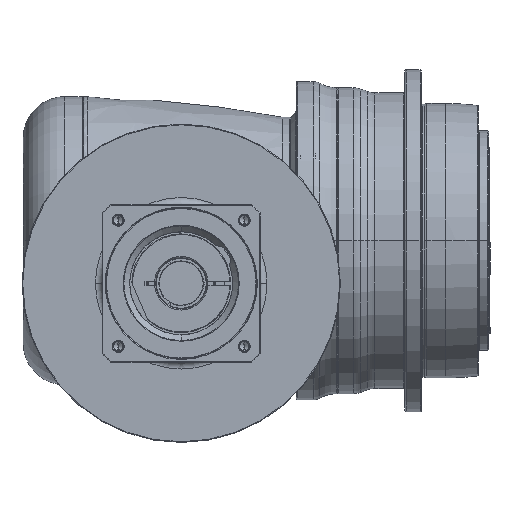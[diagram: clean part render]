
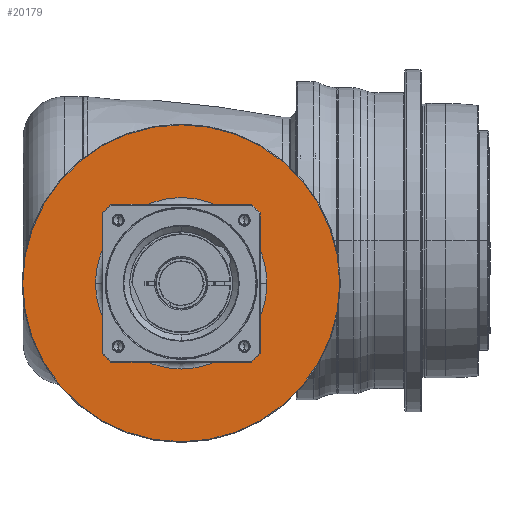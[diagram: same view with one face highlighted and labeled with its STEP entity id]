
A CAD part, front view. The second image highlights one B-rep face of the part: STEP entity #20179.
In plain terms, the highlighted planar face has unit normal (0, -1, 0) as drawn and (1, 0, 0) by its records, which use the part's own axes.
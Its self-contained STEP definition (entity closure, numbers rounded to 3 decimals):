
#19658=CARTESIAN_POINT('',(-7.5,0.,0.));
#19659=DIRECTION('',(-1.,0.,0.));
#19660=DIRECTION('',(0.,-1.,0.));
#19661=AXIS2_PLACEMENT_3D('',#19658,#19659,#19660);
#19663=CARTESIAN_POINT('',(-7.5,0.,0.));
#19664=DIRECTION('',(-1.,0.,0.));
#19665=DIRECTION('',(0.,1.,0.));
#19666=AXIS2_PLACEMENT_3D('',#19663,#19664,#19665);
#19668=CARTESIAN_POINT('',(-7.5,0.,0.));
#19669=DIRECTION('',(-1.,0.,0.));
#19670=DIRECTION('',(0.,-1.,0.));
#19671=AXIS2_PLACEMENT_3D('',#19668,#19669,#19670);
#19673=CARTESIAN_POINT('',(-7.5,0.,0.));
#19674=DIRECTION('',(-1.,0.,0.));
#19675=DIRECTION('',(0.,1.,0.));
#19676=AXIS2_PLACEMENT_3D('',#19673,#19674,#19675);
#19742=CARTESIAN_POINT('',(-7.5,-115.5,0.));
#19743=CARTESIAN_POINT('',(-7.5,115.5,0.));
#19744=VERTEX_POINT('',#19742);
#19745=VERTEX_POINT('',#19743);
#19766=CARTESIAN_POINT('',(-7.5,-62.5,0.));
#19767=CARTESIAN_POINT('',(-7.5,62.5,0.));
#19768=VERTEX_POINT('',#19766);
#19769=VERTEX_POINT('',#19767);
#20164=CARTESIAN_POINT('',(-7.5,0.,0.));
#20165=DIRECTION('',(1.,0.,0.));
#20166=DIRECTION('',(0.,-1.,0.));
#20167=AXIS2_PLACEMENT_3D('',#20164,#20165,#20166);
#20168=PLANE('',#20167);
#20169=ORIENTED_EDGE('',*,*,#20105,.T.);
#20170=ORIENTED_EDGE('',*,*,#20120,.T.);
#20171=EDGE_LOOP('',(#20169,#20170));
#20172=FACE_OUTER_BOUND('',#20171,.F.);
#20174=ORIENTED_EDGE('',*,*,#20173,.F.);
#20176=ORIENTED_EDGE('',*,*,#20175,.F.);
#20177=EDGE_LOOP('',(#20174,#20176));
#20178=FACE_BOUND('',#20177,.F.);
#20179=ADVANCED_FACE('',(#20172,#20178),#20168,.T.);
#19662=CIRCLE('',#19661,62.5);
#19667=CIRCLE('',#19666,62.5);
#19672=CIRCLE('',#19671,115.5);
#19677=CIRCLE('',#19676,115.5);
#20105=EDGE_CURVE('',#19744,#19745,#19672,.T.);
#20120=EDGE_CURVE('',#19745,#19744,#19677,.T.);
#20173=EDGE_CURVE('',#19768,#19769,#19662,.T.);
#20175=EDGE_CURVE('',#19769,#19768,#19667,.T.);
